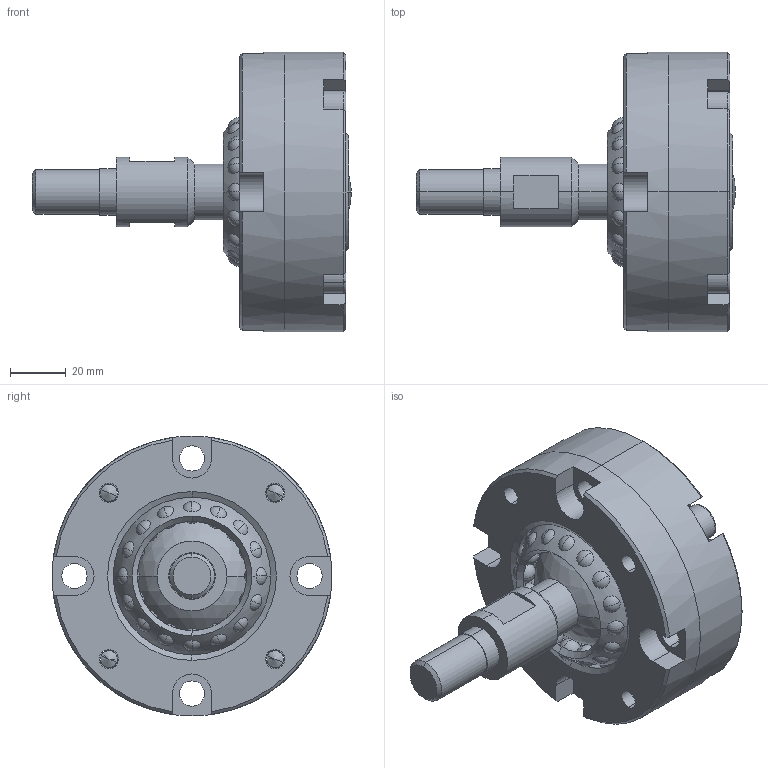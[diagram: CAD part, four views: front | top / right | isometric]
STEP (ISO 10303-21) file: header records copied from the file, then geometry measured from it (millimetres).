
FILE_DESCRIPTION (( 'STEP AP203' ), '1' );
FILE_NAME ('SR JOINT - SRJ032C.STEP', '2010-06-01T19:50:18', ( 'render' ), ( '' ), 'SwSTEP 2.0', 'SolidWorks 2009', '' );
FILE_SCHEMA (( 'CONFIG_CONTROL_DESIGN' ));
Length unit declared in the file: millimetre
Products named in the file (1): SR JOINT - SRJ032C
Bounding box: 114 x 100 x 100 mm (x, y, z)
Surface area: 75345.8 mm2 (no closed solid volume)
Topology: 0 solids, 8 shells, 382 faces, 1042 edges, 723 vertices
Faces by surface type: sphere 210, plane 82, cylinder 55, cone 27, torus 8
Entity records: 12615 total; most frequent: DIRECTION 2516, CARTESIAN_POINT 2156, ORIENTED_EDGE 1853, AXIS2_PLACEMENT_3D 1140, EDGE_CURVE 1009, CIRCLE 757, VERTEX_POINT 716, EDGE_LOOP 564
